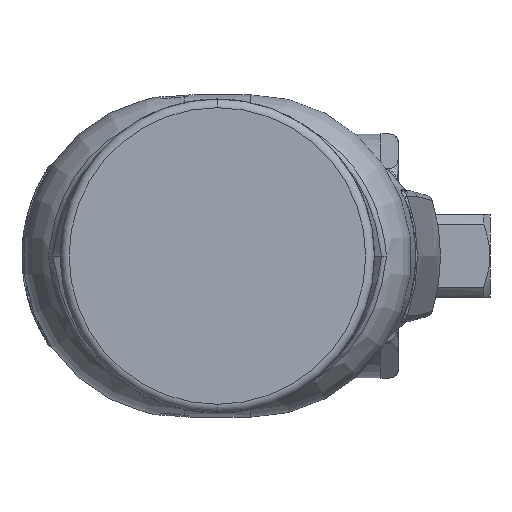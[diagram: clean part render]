
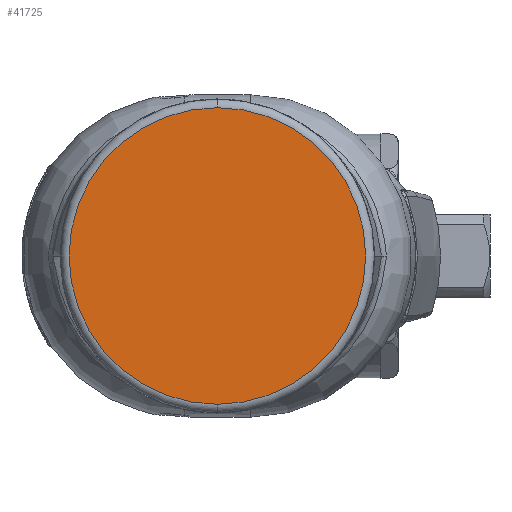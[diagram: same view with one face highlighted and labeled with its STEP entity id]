
A CAD part, left-side view. The second image highlights one B-rep face of the part: STEP entity #41725.
In plain terms, the highlighted planar face has unit normal (-1, 0, 0).
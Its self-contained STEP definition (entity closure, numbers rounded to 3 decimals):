
#768 = CARTESIAN_POINT ( 'NONE',  ( -203., -3.75, 0. ) ) ;
#2783 = VERTEX_POINT ( 'NONE', #16823 ) ;
#3560 = CARTESIAN_POINT ( 'NONE',  ( -203., -3.75, 0. ) ) ;
#4533 = DIRECTION ( 'NONE',  ( -1., 0., 0. ) ) ;
#8021 = CARTESIAN_POINT ( 'NONE',  ( -203., -3.75, 0. ) ) ;
#8218 = DIRECTION ( 'NONE',  ( 0., 0., -1. ) ) ;
#9718 = AXIS2_PLACEMENT_3D ( 'NONE', #768, #12685, #8218 ) ;
#11416 = AXIS2_PLACEMENT_3D ( 'NONE', #8021, #4533, #23112 ) ;
#12685 = DIRECTION ( 'NONE',  ( -1., 0., 0. ) ) ;
#14726 = FACE_OUTER_BOUND ( 'NONE', #18004, .T. ) ;
#16823 = CARTESIAN_POINT ( 'NONE',  ( -203., -3.75, 17. ) ) ;
#18004 = EDGE_LOOP ( 'NONE', ( #18848, #20104 ) ) ;
#18848 = ORIENTED_EDGE ( 'NONE', *, *, #25298, .T. ) ;
#20104 = ORIENTED_EDGE ( 'NONE', *, *, #23305, .T. ) ;
#23112 = DIRECTION ( 'NONE',  ( 0., 0., -1. ) ) ;
#23305 = EDGE_CURVE ( 'NONE', #2783, #46299, #43767, .T. ) ;
#25298 = EDGE_CURVE ( 'NONE', #46299, #2783, #35170, .T. ) ;
#29823 = PLANE ( 'NONE',  #46900 ) ;
#30066 = DIRECTION ( 'NONE',  ( 1., 0., 0. ) ) ;
#34536 = DIRECTION ( 'NONE',  ( 0., 0., -1. ) ) ;
#35170 = CIRCLE ( 'NONE', #11416, 17. ) ;
#40610 = CARTESIAN_POINT ( 'NONE',  ( -203., -3.75, -17. ) ) ;
#41725 = ADVANCED_FACE ( 'NONE', ( #14726 ), #29823, .F. ) ;
#43767 = CIRCLE ( 'NONE', #9718, 17. ) ;
#46299 = VERTEX_POINT ( 'NONE', #40610 ) ;
#46900 = AXIS2_PLACEMENT_3D ( 'NONE', #3560, #30066, #34536 ) ;
